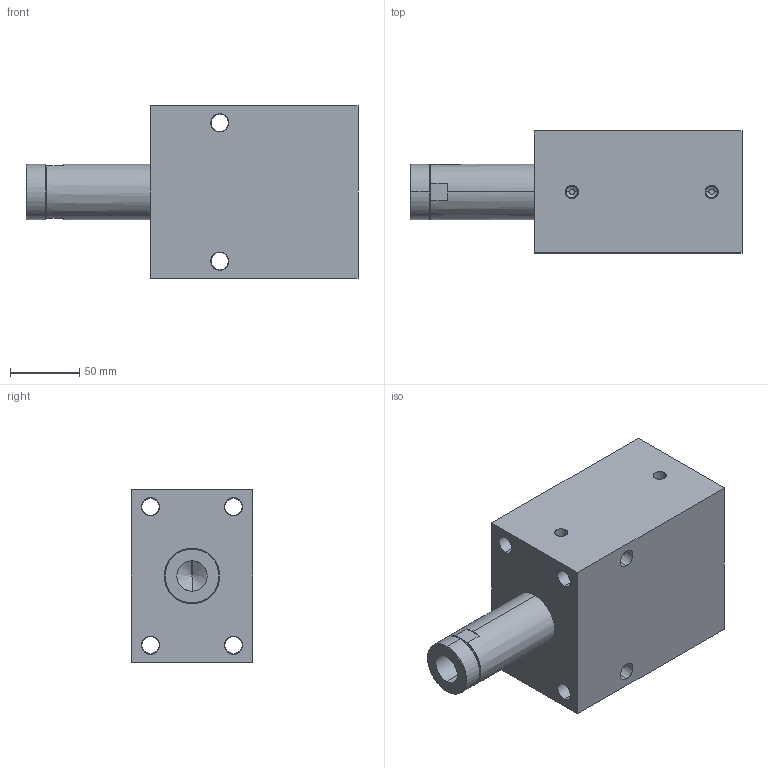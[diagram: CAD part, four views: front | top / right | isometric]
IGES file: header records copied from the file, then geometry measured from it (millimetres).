
Start section: SolidWorks IGES file using analytic representation for surfaces
Global section: file name: C:\Documents and Settings\rajib\Desktop\Rajib\BLOCK CYLINDER HYDRAULIC\0601-0606\IGS 0601-0608\0606.IGS; native system: SolidWorks 2007; preprocessor: SolidWorks 2007; author: rajib; date: 110121.105703; units: millimetre
Bounding box: 240 x 88 x 125 mm (x, y, z)
Surface area: 135544 mm2 (no closed solid volume)
Topology: 0 solids, 0 shells, 80 faces, 1904 edges, 1902 vertices
Faces by surface type: revolution 58, bspline 22
